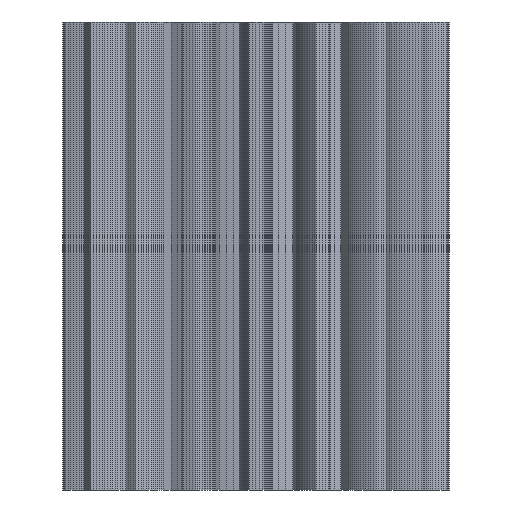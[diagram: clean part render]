
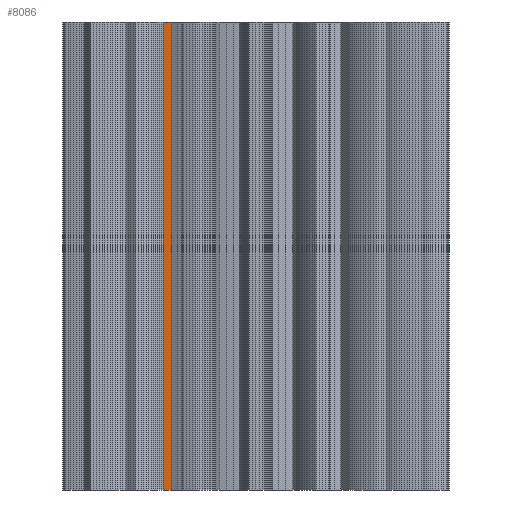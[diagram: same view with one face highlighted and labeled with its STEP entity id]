
A CAD part, left-side view. The second image highlights one B-rep face of the part: STEP entity #8086.
In plain terms, the highlighted planar face has unit normal (-0.561, -0.828, 0).
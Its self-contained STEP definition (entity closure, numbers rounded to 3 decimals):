
#8061 = VERTEX_POINT('',#8062);
#8062 = CARTESIAN_POINT('',(-6.999,4.747,199.));
#8068 = EDGE_CURVE('',#8069,#8061,#8071,.T.);
#8069 = VERTEX_POINT('',#8070);
#8070 = CARTESIAN_POINT('',(-6.999,4.747,175.));
#8071 = LINE('',#8072,#8073);
#8072 = CARTESIAN_POINT('',(-6.999,4.747,175.));
#8073 = VECTOR('',#8074,1.);
#8074 = DIRECTION('',(0.,0.,1.));
#8086 = ADVANCED_FACE('',(#8087),#8112,.F.);
#8087 = FACE_BOUND('',#8088,.F.);
#8088 = EDGE_LOOP('',(#8089,#8090,#8098,#8106));
#8089 = ORIENTED_EDGE('',*,*,#8068,.T.);
#8090 = ORIENTED_EDGE('',*,*,#8091,.T.);
#8091 = EDGE_CURVE('',#8061,#8092,#8094,.T.);
#8092 = VERTEX_POINT('',#8093);
#8093 = CARTESIAN_POINT('',(-6.414,4.35,199.));
#8094 = LINE('',#8095,#8096);
#8095 = CARTESIAN_POINT('',(-6.999,4.747,199.));
#8096 = VECTOR('',#8097,1.);
#8097 = DIRECTION('',(0.828,-0.561,0.));
#8098 = ORIENTED_EDGE('',*,*,#8099,.F.);
#8099 = EDGE_CURVE('',#8100,#8092,#8102,.T.);
#8100 = VERTEX_POINT('',#8101);
#8101 = CARTESIAN_POINT('',(-6.414,4.35,175.));
#8102 = LINE('',#8103,#8104);
#8103 = CARTESIAN_POINT('',(-6.414,4.35,175.));
#8104 = VECTOR('',#8105,1.);
#8105 = DIRECTION('',(0.,0.,1.));
#8106 = ORIENTED_EDGE('',*,*,#8107,.F.);
#8107 = EDGE_CURVE('',#8069,#8100,#8108,.T.);
#8108 = LINE('',#8109,#8110);
#8109 = CARTESIAN_POINT('',(-6.999,4.747,175.));
#8110 = VECTOR('',#8111,1.);
#8111 = DIRECTION('',(0.828,-0.561,0.));
#8112 = PLANE('',#8113);
#8113 = AXIS2_PLACEMENT_3D('',#8114,#8115,#8116);
#8114 = CARTESIAN_POINT('',(-6.999,4.747,175.));
#8115 = DIRECTION('',(0.561,0.828,-0.));
#8116 = DIRECTION('',(0.828,-0.561,0.));
